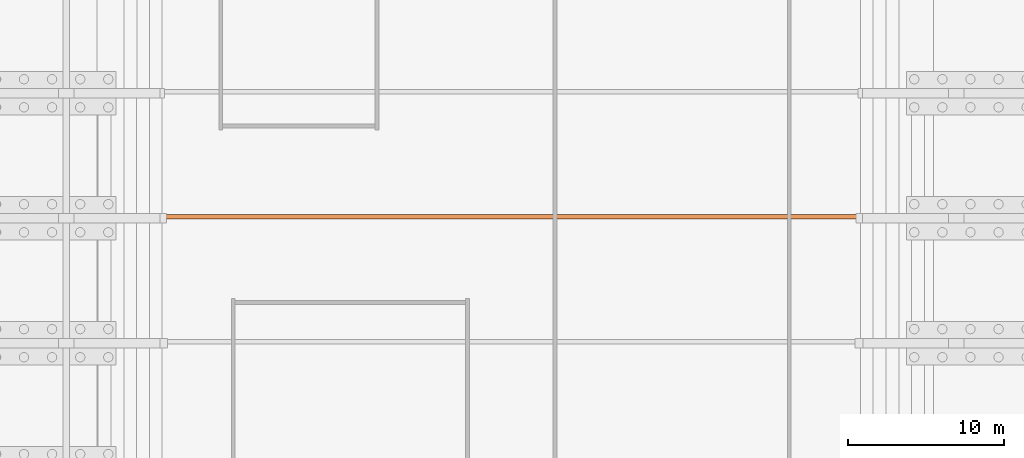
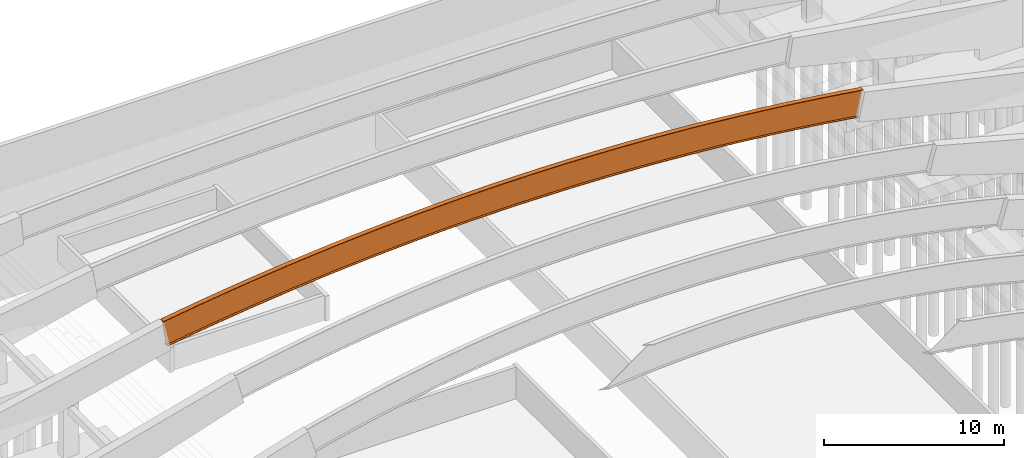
# One storey, part 8 of 10: 1 proxy.
"""IFC2X3 building model written with IfcOpenShell, lengths in millimetres."""

from ifc_helpers import new_model, si_unit, derived_unit, direction, frame, origin, place, context, subcontext, project, spatial, face_set, surface_model, source, transform, mapped, type_object, type_shapes, element, save


model = new_model("IFC2X3")

# Units and contexts
model_context = context("Model", 3, precision=0.01, world=origin(), true_north=direction((6.12303176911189e-17, 1.0)))
body_context = subcontext(model_context, "Body", "Model", "MODEL_VIEW")
ifc_project = project(units=[si_unit("LENGTHUNIT", "METRE", prefix="MILLI"), si_unit("AREAUNIT", "SQUARE_METRE"), si_unit("VOLUMEUNIT", "CUBIC_METRE"), si_unit("PLANEANGLEUNIT", "RADIAN"), si_unit("MASSUNIT", "GRAM", prefix="KILO"), derived_unit("MASSDENSITYUNIT", [(si_unit("MASSUNIT", "GRAM", prefix="KILO"), 1), (si_unit("LENGTHUNIT", "METRE"), -3)]), si_unit("TIMEUNIT", "SECOND"), si_unit("FREQUENCYUNIT", "HERTZ"), si_unit("THERMODYNAMICTEMPERATUREUNIT", "DEGREE_CELSIUS"), derived_unit("THERMALTRANSMITTANCEUNIT", [(si_unit("MASSUNIT", "GRAM", prefix="KILO"), 1), (si_unit("THERMODYNAMICTEMPERATUREUNIT", "KELVIN"), -1), (si_unit("TIMEUNIT", "SECOND"), -3)]), derived_unit("VOLUMETRICFLOWRATEUNIT", [(si_unit("LENGTHUNIT", "METRE"), 3), (si_unit("TIMEUNIT", "SECOND"), -1)]), si_unit("ELECTRICCURRENTUNIT", "AMPERE"), si_unit("ELECTRICVOLTAGEUNIT", "VOLT"), si_unit("POWERUNIT", "WATT"), si_unit("FORCEUNIT", "NEWTON", prefix="KILO"), si_unit("ILLUMINANCEUNIT", "LUX"), si_unit("LUMINOUSFLUXUNIT", "LUMEN"), si_unit("LUMINOUSINTENSITYUNIT", "CANDELA"), derived_unit("USERDEFINED", [(si_unit("MASSUNIT", "GRAM", prefix="KILO"), -1), (si_unit("LENGTHUNIT", "METRE"), -2), (si_unit("TIMEUNIT", "SECOND"), 3), (si_unit("LUMINOUSFLUXUNIT", "LUMEN"), 1)]), derived_unit("LINEARVELOCITYUNIT", [(si_unit("LENGTHUNIT", "METRE"), 1), (si_unit("TIMEUNIT", "SECOND"), -1)]), si_unit("PRESSUREUNIT", "PASCAL"), derived_unit("USERDEFINED", [(si_unit("LENGTHUNIT", "METRE"), -2), (si_unit("MASSUNIT", "GRAM", prefix="KILO"), 1), (si_unit("TIMEUNIT", "SECOND"), -2)])], contexts=[model_context])

# Site, building, storey
site_placement = place(None, origin())
site = spatial("IfcSite", under=ifc_project, at=site_placement, Name="Default", CompositionType="ELEMENT")
building_placement = place(site_placement, origin())
building = spatial("IfcBuilding", under=site, at=building_placement, CompositionType="ELEMENT")
storey_placement = place(building_placement, origin())
storey = spatial("IfcBuildingStorey", under=building, at=storey_placement, Name="Default", CompositionType="ELEMENT", Elevation=0.0)

# Proxy
building_element_proxy_type = type_object("IfcBuildingElementProxyType", Name="VIGA", PredefinedType="NOTDEFINED")
shared_shape = source(origin(), body_context, "Body", "SurfaceModel", [
    surface_model("IfcFaceBasedSurfaceModel", [(45000.0062059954, 0.0, 1778.92095974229), (44996.1914305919, 0.0, 1754.21372419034), (44996.1914305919, 140.0, 1754.21372419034), (44729.1571523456, 140.0, 24.7072355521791), (44729.1571523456, 0.0, 24.7072355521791), (44725.3423769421, 0.0, 0.0), (44725.3423769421, 300.0, 0.0), (44729.1571523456, 300.0, 24.7072355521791), (44729.1571523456, 160.0, 24.7072355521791), (44996.1914305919, 160.0, 1754.21372419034), (44996.1914305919, 300.0, 1754.21372419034), (45000.0062059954, 300.0, 1778.92095974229), (0.0, 0.0, 1778.92095974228), (3.81477540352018, 0.0, 1754.21372419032), (3.81477540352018, 140.0, 1754.21372419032), (270.849053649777, 140.0, 24.7072355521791), (270.849053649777, 0.0, 24.7072355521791), (274.663829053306, 0.0, 0.0), (274.663829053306, 300.0, 0.0), (270.849053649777, 300.0, 24.7072355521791), (270.849053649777, 160.0, 24.7072355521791), (3.81477540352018, 160.0, 1754.21372419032), (3.81477540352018, 300.0, 1754.21372419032), (0.0, 300.0, 1778.92095974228), (39573.9283324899, -0.00242346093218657, 2513.83053463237), (40932.9430541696, -0.00242346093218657, 2349.00280483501), (40932.9430541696, 299.997869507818, 2349.00280483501), (39573.9283324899, 299.997869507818, 2513.83053463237), (38213.4346313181, -0.00242346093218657, 2666.03403499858), (38213.4346313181, 299.997869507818, 2666.03403499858), (36851.5828735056, -0.00242346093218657, 2805.59993465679), (36851.5828735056, 299.997869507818, 2805.59993465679), (43646.0983764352, -0.00242346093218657, 1981.53221157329), (43646.0983764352, 299.997869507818, 1981.53221157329), (42290.3764770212, -0.00242346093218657, 2171.56508892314), (42290.3764770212, 299.997869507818, 2171.56508892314), (35488.5032836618, -0.00242346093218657, 2932.51631572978), (35488.5032836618, 299.997869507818, 2932.51631572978), (27290.6036742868, -0.00242346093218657, 3427.83927944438), (28658.6411010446, -0.00242346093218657, 3377.01156795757), (28658.6411010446, 299.997869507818, 3377.01156795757), (27290.6036742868, 299.997869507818, 3427.83927944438), (25922.1569701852, -0.00242346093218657, 3465.9642779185), (25922.1569701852, 299.997869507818, 3465.9642779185), (24553.4126098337, -0.00242346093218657, 3491.38249386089), (24553.4126098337, 299.997869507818, 3491.38249386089), (32759.0884887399, -0.00242346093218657, 3148.35808285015), (34124.2981811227, -0.00242346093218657, 3046.77242306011), (34124.2981811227, 299.997869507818, 3046.77242306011), (32759.0884887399, 299.997869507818, 3148.35808285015), (30026.1483276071, -0.00242346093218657, 3313.48463161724), (31393.0044311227, -0.00242346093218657, 3237.26486538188), (31393.0044311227, 299.997869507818, 3237.26486538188), (30026.1483276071, 299.997869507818, 3313.48463161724), (23184.4915160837, -0.00242346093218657, 3504.09218319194), (23184.4915160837, 299.997869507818, 3504.09218319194), (21815.5146117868, -0.00242346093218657, 3504.09218319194), (21815.5146117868, 299.997869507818, 3504.09218319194), (16341.3650268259, -0.00242346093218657, 3377.01156795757), (17709.4024535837, -0.00242346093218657, 3427.83927944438), (17709.4024535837, 299.997869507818, 3427.83927944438), (16341.3650268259, 299.997869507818, 3377.01156795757), (14973.8578002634, -0.00242346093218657, 3313.48463161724), (14973.8578002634, 299.997869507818, 3313.48463161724), (13607.0016967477, -0.00242346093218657, 3237.26486538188), (13607.0016967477, 299.997869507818, 3237.26486538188), (20446.5935180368, -0.00242346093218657, 3491.38249386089), (20446.5935180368, 299.997869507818, 3491.38249386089), (19077.8491576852, -0.00242346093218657, 3465.9642779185), (19077.8491576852, 299.997869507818, 3465.9642779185), (12240.9129882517, -0.00242346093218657, 3148.35808285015), (12240.9129882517, 299.997869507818, 3148.35808285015), (4067.06307370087, -0.00242346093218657, 2349.00280483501), (5426.08244625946, -0.00242346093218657, 2513.83053463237), (5426.08244625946, 299.997869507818, 2513.83053463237), (4067.06307370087, 299.997869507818, 2349.00280483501), (2709.62965084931, -0.00242346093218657, 2171.56508892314), (2709.62965084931, 299.997869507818, 2171.56508892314), (1353.90310055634, -0.00242346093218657, 1981.53221157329), (1353.90310055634, 299.997869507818, 1981.53221157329), (9511.50284420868, -0.00242346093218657, 2932.51631572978), (10875.7079467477, -0.00242346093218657, 3046.77242306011), (10875.7079467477, 299.997869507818, 3046.77242306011), (9511.50284420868, 299.997869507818, 2932.51631572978), (6786.57614743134, -0.00242346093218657, 2666.03403499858), (8148.41860348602, -0.00242346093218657, 2805.59993465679), (8148.41860348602, 299.997869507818, 2805.59993465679), (6786.57614743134, 299.997869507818, 2666.03403499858), (43642.5177095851, 300.0, 1956.79061820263), (42287.0215897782, 300.0, 2146.79117115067), (40929.8199094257, 300.0, 2324.19900575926), (39571.0296537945, 300.0, 2488.99883019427), (38210.7679450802, 300.0, 2641.17643938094), (36849.1520323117, 300.0, 2780.71871622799), (35486.2992812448, 300.0, 2907.61363275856), (34122.3271642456, 300.0, 3021.85025114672), (32757.3532501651, 300.0, 3123.41872466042), (31391.4951942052, 300.0, 3212.31029851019), (30024.8707277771, 300.0, 3288.51731060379), (28657.5976483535, 300.0, 3352.0331922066), (27289.7938093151, 300.0, 3402.85246850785), (25921.5771097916, 300.0, 3440.97075909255), (24553.0654844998, 300.0, 3466.38477831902), (23184.3768935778, 300.0, 3479.09233560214), (21815.6293124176, 300.0, 3479.09233560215), (20446.9407214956, 300.0, 3466.38477831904), (19078.4290962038, 300.0, 3440.97075909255), (17710.2123966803, 300.0, 3402.85246850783), (16342.4085576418, 300.0, 3352.03319220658), (14975.1354782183, 300.0, 3288.51731060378), (13608.5110117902, 300.0, 3212.31029851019), (12242.6529558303, 300.0, 3123.41872466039), (10877.6790417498, 300.0, 3021.8502511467), (9513.70692475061, 300.0, 2907.61363275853), (8150.85417368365, 300.0, 2780.71871622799), (6789.23826091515, 300.0, 2641.17643938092), (5428.97655220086, 300.0, 2488.99883019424), (4070.18629656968, 300.0, 2324.19900575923), (2712.98461621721, 300.0, 2146.79117115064), (1357.48849641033, 300.0, 1956.7906182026), (39571.0261840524, 159.99711267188, 2488.99891079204), (42287.0185424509, 159.99711267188, 2146.79131038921), (36849.1551147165, 159.99711267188, 2780.71860454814), (25921.5802612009, 159.99711267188, 3440.97103603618), (28657.5993041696, 159.99711267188, 3352.03344143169), (31391.4975463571, 159.99711267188, 3212.3105746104), (34122.3262084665, 159.99711267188, 3021.8501070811), (23184.3798949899, 159.99711267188, 3479.09254635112), (21815.6262328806, 159.99711267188, 3479.09254635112), (16342.4068237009, 159.99711267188, 3352.03344143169), (19078.4305175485, 159.99711267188, 3440.97103603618), (13608.5132323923, 159.99711267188, 3212.3105746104), (2712.98293454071, 159.99711267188, 2146.79131038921), (5428.97529293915, 159.99711267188, 2488.99891079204), (8150.8556640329, 159.99711267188, 2780.71860454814), (10877.679919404, 159.99711267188, 3021.8501070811), (1357.48849641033, 160.0, 1956.79061820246), (4070.18629656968, 160.0, 2324.19900575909), (6789.23826091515, 160.0, 2641.17643938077), (9513.70692475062, 160.0, 2907.61363275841), (12242.6529558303, 160.0, 3123.41872466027), (14975.1354782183, 160.0, 3288.51731060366), (17710.2123966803, 160.0, 3402.85246850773), (20446.9407214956, 160.0, 3466.38477831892), (24553.0654844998, 160.0, 3466.38477831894), (27289.7938093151, 160.0, 3402.85246850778), (30024.8707277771, 160.0, 3288.51731060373), (32757.3532501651, 160.0, 3123.41872466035), (35486.2992812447, 160.0, 2907.61363275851), (38210.7679450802, 160.0, 2641.17643938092), (40929.8199094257, 160.0, 2324.19900575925), (43642.5177095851, 160.0, 1956.79061820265), (43391.5518105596, 160.0, 224.879501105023), (42052.1457022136, 160.0, 412.624709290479), (40711.0542786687, 160.0, 587.926677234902), (39368.3931365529, 160.0, 750.770294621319), (38024.278007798, 160.0, 901.141524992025), (36678.8247496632, 160.0, 1039.02740695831), (35332.1493347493, 160.0, 1164.41605531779), (33984.3678410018, 160.0, 1277.2966620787), (32635.5964417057, 160.0, 1377.65949739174), (31285.9513954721, 160.0, 1465.49591038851), (29935.5490362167, 160.0, 1540.79832992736), (28584.5057631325, 160.0, 1603.56026524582), (27232.9380306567, 160.0, 1653.7763065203), (25880.9623384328, 160.0, 1691.4421253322), (24528.6952212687, 160.0, 1716.55447504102), (23176.2532390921, 160.0, 1729.11119106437), (21823.7529669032, 160.0, 1729.11119106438), (20471.3109847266, 160.0, 1716.55447504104), (19119.0438675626, 160.0, 1691.4421253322), (17767.0681753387, 160.0, 1653.77630652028), (16415.5004428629, 160.0, 1603.5602652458), (15064.4571697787, 160.0, 1540.79832992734), (13714.0548105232, 160.0, 1465.49591038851), (12364.4097642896, 160.0, 1377.65949739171), (11015.6383649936, 160.0, 1277.29666207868), (9667.85687124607, 160.0, 1164.41605531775), (8321.18145633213, 160.0, 1039.0274069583), (6975.72819819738, 160.0, 901.141524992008), (5631.61306944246, 160.0, 750.770294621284), (4288.95192732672, 160.0, 587.926677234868), (2947.86050378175, 160.0, 412.624709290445), (1608.45439543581, 160.0, 224.879501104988), (40711.0589233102, 299.997869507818, 587.926723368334), (39368.3966918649, 299.997869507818, 750.770417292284), (38024.2740844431, 299.997869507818, 901.141471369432), (36678.821325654, 299.997869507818, 1039.02753170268), (43391.5557738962, 299.997869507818, 224.879551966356), (42052.1491576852, 299.997869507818, 412.624778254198), (35332.1500365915, 299.997869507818, 1164.41609905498), (28584.506091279, 299.997869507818, 1603.56022442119), (27232.9420776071, 299.997869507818, 1653.77634533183), (25880.9594848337, 299.997869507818, 1691.44206951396), (24528.6978393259, 299.997869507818, 1716.55449016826), (33984.3718383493, 299.997869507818, 1277.29670894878), (32635.5983520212, 299.997869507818, 1377.65947826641), (31285.9505004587, 299.997869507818, 1465.49597728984), (29935.5492065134, 299.997869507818, 1540.79835766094), (23176.2501586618, 299.997869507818, 1729.11128185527), (21823.7559692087, 299.997869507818, 1729.11128185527), (17767.0687011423, 299.997869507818, 1653.77634533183), (16415.5000365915, 299.997869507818, 1603.56022442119), (15064.4569213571, 299.997869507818, 1540.79835766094), (13714.0556274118, 299.997869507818, 1465.49597728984), (20471.3082885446, 299.997869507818, 1716.55449016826), (19119.0419921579, 299.997869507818, 1691.44206951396), (12364.4077758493, 299.997869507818, 1377.65947826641), (5631.61408688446, 299.997869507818, 750.770417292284), (4288.95185543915, 299.997869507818, 587.926723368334), (2947.86162106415, 299.997869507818, 412.624778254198), (1608.45500485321, 299.997869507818, 224.879551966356), (11015.6389404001, 299.997869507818, 1277.29670894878), (9667.85609127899, 299.997869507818, 1164.41609905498), (8321.18015133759, 299.997869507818, 1039.02753170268), (6975.72739254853, 299.997869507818, 901.141471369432), (43387.9665834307, 300.0, 200.137913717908), (42048.7903323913, 300.0, 387.850902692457), (40707.9290553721, 300.0, 563.12278682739), (39365.4983291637, 300.0, 725.938458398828), (38021.6138658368, 300.0, 876.283883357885), (36676.3915027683, 300.0, 1014.14610254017), (35329.9471926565, 300.0, 1139.51323278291), (33982.3969935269, 300.0, 1252.37446794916), (32633.8570587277, 300.0, 1352.72007985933), (31284.4436269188, 300.0, 1440.54141912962), (29934.2730120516, 300.0, 1515.83091591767), (28583.4615933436, 300.0, 1578.58208057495), (27232.1258052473, 300.0, 1628.78950420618), (25880.3821274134, 300.0, 1666.44885913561), (24528.3470746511, 300.0, 1691.55689927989), (23176.1371868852, 300.0, 1704.11146042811), (21823.8690191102, 300.0, 1704.11146042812), (20471.6591313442, 300.0, 1691.55689927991), (19119.624078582, 300.0, 1666.44885913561), (17767.8804007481, 300.0, 1628.78950420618), (16416.5446126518, 300.0, 1578.58208057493), (15065.7331939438, 300.0, 1515.83091591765), (13715.5625790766, 300.0, 1440.54141912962), (12366.1491472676, 300.0, 1352.72007985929), (11017.6092124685, 300.0, 1252.37446794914), (9670.05901333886, 300.0, 1139.51323278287), (8323.61470322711, 300.0, 1014.14610254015), (6978.39234015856, 300.0, 876.283883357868), (5634.50787683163, 300.0, 725.938458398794), (4292.07715062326, 300.0, 563.122786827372), (2951.21587360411, 300.0, 387.85090269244), (1612.03962256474, 300.0, 200.137913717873), (42048.7912231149, -0.00242346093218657, 387.850854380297), (39365.4945434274, -0.00242346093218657, 725.93850277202), (36676.3935668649, -0.00242346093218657, 1014.14620159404), (28583.464294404, -0.00242346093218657, 1578.58209789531), (25880.3827758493, -0.00242346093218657, 1666.44882763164), (33982.3998656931, -0.00242346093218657, 1252.37439296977), (31284.4436156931, -0.00242346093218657, 1440.54139583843), (23176.1385375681, -0.00242346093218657, 1704.11135433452), (21823.8675903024, -0.00242346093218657, 1704.11135433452), (19119.6233520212, -0.00242346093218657, 1666.44882763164), (16416.5464843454, -0.00242346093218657, 1578.58209789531), (13715.5625121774, -0.00242346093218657, 1440.54139583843), (5634.50693356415, -0.00242346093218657, 725.93850277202), (2951.21490475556, -0.00242346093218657, 387.850854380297), (11017.6109130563, -0.00242346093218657, 1252.37439296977), (8323.61256100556, -0.00242346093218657, 1014.14620159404), (1612.03962256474, 0.0, 200.137913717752), (4292.07715062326, 0.0, 563.122786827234), (6978.39234015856, 0.0, 876.283883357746), (9670.05901333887, 0.0, 1139.51323278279), (12366.1491472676, 0.0, 1352.72007985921), (15065.7331939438, 0.0, 1515.83091591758), (17767.8804007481, 0.0, 1628.78950420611), (20471.6591313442, 0.0, 1691.55689927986), (24528.3470746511, 0.0, 1691.55689927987), (27232.1258052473, 0.0, 1628.78950420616), (29934.2730120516, 0.0, 1515.83091591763), (32633.8570587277, 0.0, 1352.72007985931), (35329.9471926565, 0.0, 1139.51323278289), (38021.6138658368, 0.0, 876.283883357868), (40707.9290553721, 0.0, 563.122786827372), (43387.9665834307, 0.0, 200.137913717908), (43391.5518105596, 0.0, 224.879501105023), (42052.1457022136, 0.0, 412.624709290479), (40711.0542786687, 0.0, 587.926677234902), (39368.3931365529, 0.0, 750.770294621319), (38024.278007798, 0.0, 901.141524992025), (36678.8247496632, 0.0, 1039.02740695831), (35332.1493347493, 0.0, 1164.41605531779), (33984.3678410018, 0.0, 1277.2966620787), (32635.5964417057, 0.0, 1377.65949739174), (31285.9513954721, 0.0, 1465.49591038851), (29935.5490362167, 0.0, 1540.79832992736), (28584.5057631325, 0.0, 1603.56026524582), (27232.9380306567, 0.0, 1653.7763065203), (25880.9623384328, 0.0, 1691.4421253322), (24528.6952212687, 0.0, 1716.55447504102), (23176.2532390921, 0.0, 1729.11119106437), (21823.7529669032, 0.0, 1729.11119106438), (20471.3109847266, 0.0, 1716.55447504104), (19119.0438675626, 0.0, 1691.4421253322), (17767.0681753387, 0.0, 1653.77630652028), (16415.5004428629, 0.0, 1603.5602652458), (15064.4571697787, 0.0, 1540.79832992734), (13714.0548105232, 0.0, 1465.49591038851), (12364.4097642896, 0.0, 1377.65949739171), (11015.6383649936, 0.0, 1277.29666207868), (9667.85687124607, 0.0, 1164.41605531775), (8321.18145633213, 0.0, 1039.0274069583), (6975.72819819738, 0.0, 901.141524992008), (5631.61306944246, 0.0, 750.770294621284), (4288.95192732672, 0.0, 587.926677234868), (2947.86050378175, 0.0, 412.624709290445), (1608.45439543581, 0.0, 224.879501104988), (40711.0589233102, 139.998333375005, 587.926723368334), (39368.3966918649, 139.998333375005, 750.770417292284), (38024.2740844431, 139.998333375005, 901.141471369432), (36678.821325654, 139.998333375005, 1039.02753170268), (43391.5557738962, 139.998333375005, 224.879551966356), (42052.1491576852, 139.998333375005, 412.624778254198), (35332.1500365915, 139.998333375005, 1164.41609905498), (28584.506091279, 139.998333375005, 1603.56022442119), (27232.9420776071, 139.998333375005, 1653.77634533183), (25880.9594848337, 139.998333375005, 1691.44206951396), (24528.6978393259, 139.998333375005, 1716.55449016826), (33984.3718383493, 139.998333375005, 1277.29670894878), (32635.5983520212, 139.998333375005, 1377.65947826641), (31285.9505004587, 139.998333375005, 1465.49597728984), (29935.5492065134, 139.998333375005, 1540.79835766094), (23176.2501586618, 139.998333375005, 1729.11128185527), (21823.7559692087, 139.998333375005, 1729.11128185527), (17767.0687011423, 139.998333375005, 1653.77634533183), (16415.5000365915, 139.998333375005, 1603.56022442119), (15064.4569213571, 139.998333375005, 1540.79835766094), (13714.0556274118, 139.998333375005, 1465.49597728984), (20471.3082885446, 139.998333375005, 1716.55449016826), (19119.0419921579, 139.998333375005, 1691.44206951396), (12364.4077758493, 139.998333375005, 1377.65947826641), (5631.61408688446, 139.998333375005, 750.770417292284), (4288.95185543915, 139.998333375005, 587.926723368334), (2947.86162106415, 139.998333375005, 412.624778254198), (1608.45500485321, 139.998333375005, 224.879551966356), (11015.6389404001, 139.998333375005, 1277.29670894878), (9667.85609127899, 139.998333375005, 1164.41609905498), (8321.18015133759, 139.998333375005, 1039.02753170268), (6975.72739254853, 139.998333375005, 901.141471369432), (43642.5177095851, 140.0, 1956.79061820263), (42287.0215897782, 140.0, 2146.79117115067), (40929.8199094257, 140.0, 2324.19900575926), (39571.0296537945, 140.0, 2488.99883019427), (38210.7679450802, 140.0, 2641.17643938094), (36849.1520323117, 140.0, 2780.71871622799), (35486.2992812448, 140.0, 2907.61363275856), (34122.3271642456, 140.0, 3021.85025114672), (32757.3532501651, 140.0, 3123.41872466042), (31391.4951942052, 140.0, 3212.31029851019), (30024.8707277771, 140.0, 3288.51731060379), (28657.5976483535, 140.0, 3352.0331922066), (27289.7938093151, 140.0, 3402.85246850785), (25921.5771097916, 140.0, 3440.97075909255), (24553.0654844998, 140.0, 3466.38477831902), (23184.3768935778, 140.0, 3479.09233560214), (21815.6293124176, 140.0, 3479.09233560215), (20446.9407214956, 140.0, 3466.38477831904), (19078.4290962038, 140.0, 3440.97075909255), (17710.2123966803, 140.0, 3402.85246850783), (16342.4085576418, 140.0, 3352.03319220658), (14975.1354782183, 140.0, 3288.51731060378), (13608.5110117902, 140.0, 3212.31029851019), (12242.6529558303, 140.0, 3123.41872466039), (10877.6790417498, 140.0, 3021.8502511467), (9513.70692475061, 140.0, 2907.61363275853), (8150.85417368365, 140.0, 2780.71871622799), (6789.23826091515, 140.0, 2641.17643938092), (5428.97655220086, 140.0, 2488.99883019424), (4070.18629656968, 140.0, 2324.19900575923), (2712.98461621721, 140.0, 2146.79117115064), (1357.48849641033, 140.0, 1956.7906182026), (42287.0185424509, -0.00242346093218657, 2146.79131038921), (39571.0261840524, -0.00242346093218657, 2488.99891079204), (36849.1551147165, -0.00242346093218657, 2780.71860454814), (28657.5993041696, -0.00242346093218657, 3352.03344143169), (25921.5802612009, -0.00242346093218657, 3440.97103603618), (34122.3262084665, -0.00242346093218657, 3021.8501070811), (31391.4975463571, -0.00242346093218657, 3212.3105746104), (23184.3798949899, -0.00242346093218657, 3479.09254635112), (21815.6262328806, -0.00242346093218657, 3479.09254635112), (19078.4305175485, -0.00242346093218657, 3440.97103603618), (16342.4068237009, -0.00242346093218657, 3352.03344143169), (13608.5132323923, -0.00242346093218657, 3212.3105746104), (5428.97529293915, -0.00242346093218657, 2488.99891079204), (2712.98293454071, -0.00242346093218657, 2146.79131038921), (10877.679919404, -0.00242346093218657, 3021.8501070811), (8150.8556640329, -0.00242346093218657, 2780.71860454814), (1357.48849641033, 0.0, 1956.79061820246), (4070.18629656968, 0.0, 2324.19900575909), (6789.23826091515, 0.0, 2641.17643938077), (9513.70692475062, 0.0, 2907.61363275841), (12242.6529558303, 0.0, 3123.41872466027), (14975.1354782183, 0.0, 3288.51731060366), (17710.2123966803, 0.0, 3402.85246850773), (20446.9407214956, 0.0, 3466.38477831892), (24553.0654844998, 0.0, 3466.38477831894), (27289.7938093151, 0.0, 3402.85246850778), (30024.8707277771, 0.0, 3288.51731060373), (32757.3532501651, 0.0, 3123.41872466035), (35486.2992812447, 0.0, 2907.61363275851), (38210.7679450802, 0.0, 2641.17643938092), (40929.8199094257, 0.0, 2324.19900575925), (43642.5177095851, 0.0, 1956.79061820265)], [face_set([[[0, 1, 2, 3, 4, 5, 6, 7, 8, 9, 10, 11]], [[12, 13, 14, 15, 16, 17, 18, 19, 20, 21, 22, 23]], [[24, 25, 26, 27]], [[28, 24, 27, 29]], [[30, 28, 29, 31]], [[32, 0, 11, 33]], [[34, 32, 33, 35]], [[25, 34, 35, 26]], [[36, 30, 31, 37]], [[38, 39, 40, 41]], [[42, 38, 41, 43]], [[44, 42, 43, 45]], [[46, 47, 48, 49]], [[50, 51, 52, 53]], [[51, 46, 49, 52]], [[39, 50, 53, 40]], [[47, 36, 37, 48]], [[54, 44, 45, 55]], [[56, 54, 55, 57]], [[58, 59, 60, 61]], [[62, 58, 61, 63]], [[64, 62, 63, 65]], [[66, 56, 57, 67]], [[68, 66, 67, 69]], [[59, 68, 69, 60]], [[70, 64, 65, 71]], [[72, 73, 74, 75]], [[76, 72, 75, 77]], [[78, 76, 77, 79]], [[80, 81, 82, 83]], [[84, 85, 86, 87]], [[85, 80, 83, 86]], [[73, 84, 87, 74]], [[81, 70, 71, 82]], [[12, 78, 79, 23]], [[22, 23, 79, 77, 75, 74, 87, 86, 83, 82, 71, 65, 63, 61, 60, 69, 67, 57, 55, 45, 43, 41, 40, 53, 52, 49, 48, 37, 31, 29, 27, 26, 35, 33, 11, 10, 88, 89, 90, 91, 92, 93, 94, 95, 96, 97, 98, 99, 100, 101, 102, 103, 104, 105, 106, 107, 108, 109, 110, 111, 112, 113, 114, 115, 116, 117, 118, 119]], [[89, 91, 120, 121]], [[9, 10, 89, 121]], [[91, 93, 122, 120]], [[99, 101, 123, 124]], [[95, 97, 125, 126]], [[97, 99, 124, 125]], [[93, 95, 126, 122]], [[101, 103, 127, 123]], [[128, 127, 103, 104]], [[106, 108, 129, 130]], [[104, 106, 130, 128]], [[108, 110, 131, 129]], [[116, 118, 132, 133]], [[112, 114, 134, 135]], [[114, 116, 133, 134]], [[110, 112, 135, 131]], [[118, 22, 21, 132]], [[20, 21, 136, 132, 137, 133, 138, 134, 139, 135, 140, 131, 141, 129, 142, 130, 143, 128, 127, 144, 123, 145, 124, 146, 125, 147, 126, 148, 122, 149, 120, 150, 121, 151, 9, 8, 152, 153, 154, 155, 156, 157, 158, 159, 160, 161, 162, 163, 164, 165, 166, 167, 168, 169, 170, 171, 172, 173, 174, 175, 176, 177, 178, 179, 180, 181, 182, 183]], [[155, 154, 184, 185]], [[156, 155, 185, 186]], [[157, 156, 186, 187]], [[152, 8, 7, 188]], [[153, 152, 188, 189]], [[154, 153, 189, 184]], [[158, 157, 187, 190]], [[164, 163, 191, 192]], [[165, 164, 192, 193]], [[166, 165, 193, 194]], [[160, 159, 195, 196]], [[162, 161, 197, 198]], [[161, 160, 196, 197]], [[163, 162, 198, 191]], [[159, 158, 190, 195]], [[199, 194, 166, 167]], [[200, 199, 167, 168]], [[172, 171, 201, 202]], [[173, 172, 202, 203]], [[174, 173, 203, 204]], [[205, 200, 168, 169]], [[170, 169, 205, 206]], [[171, 170, 206, 201]], [[175, 174, 204, 207]], [[181, 180, 208, 209]], [[182, 181, 209, 210]], [[183, 182, 210, 211]], [[177, 176, 212, 213]], [[179, 178, 214, 215]], [[178, 177, 213, 214]], [[180, 179, 215, 208]], [[176, 175, 207, 212]], [[20, 183, 211, 19]], [[18, 19, 211, 210, 209, 208, 215, 214, 213, 212, 207, 204, 203, 202, 201, 206, 205, 200, 199, 194, 193, 192, 191, 198, 197, 196, 195, 190, 187, 186, 185, 184, 189, 188, 7, 6, 216, 217, 218, 219, 220, 221, 222, 223, 224, 225, 226, 227, 228, 229, 230, 231, 232, 233, 234, 235, 236, 237, 238, 239, 240, 241, 242, 243, 244, 245, 246, 247]], [[248, 217, 219, 249]], [[6, 217, 248, 5]], [[249, 219, 221, 250]], [[251, 227, 229, 252]], [[253, 223, 225, 254]], [[254, 225, 227, 251]], [[250, 221, 223, 253]], [[255, 231, 229, 252]], [[256, 232, 231, 255]], [[257, 234, 236, 258]], [[257, 234, 232, 256]], [[258, 236, 238, 259]], [[260, 244, 246, 261]], [[262, 240, 242, 263]], [[263, 242, 244, 260]], [[259, 238, 240, 262]], [[261, 246, 18, 17]], [[16, 17, 264, 261, 265, 260, 266, 263, 267, 262, 268, 259, 269, 258, 270, 257, 271, 256, 255, 272, 252, 273, 251, 274, 254, 275, 253, 276, 250, 277, 249, 278, 248, 279, 5, 4, 280, 281, 282, 283, 284, 285, 286, 287, 288, 289, 290, 291, 292, 293, 294, 295, 296, 297, 298, 299, 300, 301, 302, 303, 304, 305, 306, 307, 308, 309, 310, 311]], [[282, 312, 313, 283]], [[283, 313, 314, 284]], [[284, 314, 315, 285]], [[4, 3, 316, 280]], [[281, 317, 312, 282]], [[280, 316, 317, 281]], [[285, 315, 318, 286]], [[291, 319, 320, 292]], [[292, 320, 321, 293]], [[293, 321, 322, 294]], [[287, 323, 324, 288]], [[289, 325, 326, 290]], [[288, 324, 325, 289]], [[290, 326, 319, 291]], [[286, 318, 323, 287]], [[295, 327, 322, 294]], [[327, 295, 296, 328]], [[299, 329, 330, 300]], [[300, 330, 331, 301]], [[301, 331, 332, 302]], [[297, 333, 328, 296]], [[297, 333, 334, 298]], [[298, 334, 329, 299]], [[302, 332, 335, 303]], [[308, 336, 337, 309]], [[309, 337, 338, 310]], [[310, 338, 339, 311]], [[304, 340, 341, 305]], [[306, 342, 343, 307]], [[305, 341, 342, 306]], [[307, 343, 336, 308]], [[303, 335, 340, 304]], [[311, 339, 15, 16]], [[14, 15, 339, 338, 337, 336, 343, 342, 341, 340, 335, 332, 331, 330, 329, 334, 333, 328, 327, 322, 321, 320, 319, 326, 325, 324, 323, 318, 315, 314, 313, 312, 317, 316, 3, 2, 344, 345, 346, 347, 348, 349, 350, 351, 352, 353, 354, 355, 356, 357, 358, 359, 360, 361, 362, 363, 364, 365, 366, 367, 368, 369, 370, 371, 372, 373, 374, 375]], [[376, 345, 347, 377]], [[2, 345, 376, 1]], [[377, 347, 349, 378]], [[379, 355, 357, 380]], [[381, 351, 353, 382]], [[382, 353, 355, 379]], [[378, 349, 351, 381]], [[380, 357, 359, 383]], [[383, 359, 360, 384]], [[385, 362, 364, 386]], [[384, 360, 362, 385]], [[386, 364, 366, 387]], [[388, 372, 374, 389]], [[390, 368, 370, 391]], [[391, 370, 372, 388]], [[387, 366, 368, 390]], [[389, 374, 14, 13]], [[12, 13, 392, 389, 393, 388, 394, 391, 395, 390, 396, 387, 397, 386, 398, 385, 399, 384, 383, 400, 380, 401, 379, 402, 382, 403, 381, 404, 378, 405, 377, 406, 376, 407, 1, 0, 32, 34, 25, 24, 28, 30, 36, 47, 46, 51, 50, 39, 38, 42, 44, 54, 56, 66, 68, 59, 58, 62, 64, 70, 81, 80, 85, 84, 73, 72, 76, 78]]])]),
])
type_shapes(building_element_proxy_type, [shared_shape])
proxy_placement = place(building_placement, frame((58555.294233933, 106744.143733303, 1832.69427463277)))
element("IfcBuildingElementProxy", 1, at=proxy_placement, inside=storey, type_object=building_element_proxy_type, Name="VIGA 221:VIGA 221", ObjectType="VIGA 221:VIGA 221", context=body_context, shape_type="MappedRepresentation", body=[
    mapped(shared_shape, transform((0.0, 0.0, 0.0), scale=1.0)),
])

save(model, "model.ifc")
